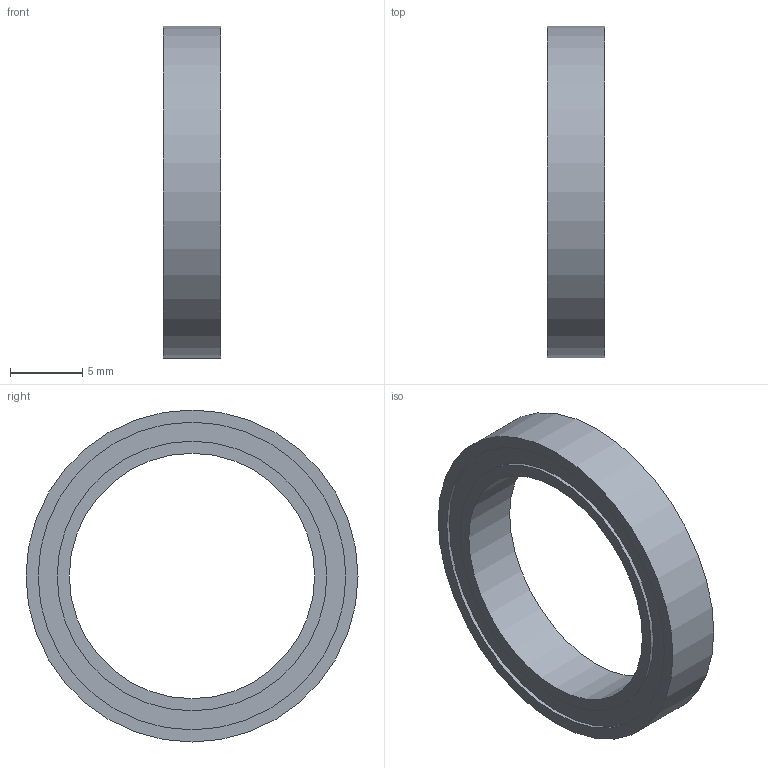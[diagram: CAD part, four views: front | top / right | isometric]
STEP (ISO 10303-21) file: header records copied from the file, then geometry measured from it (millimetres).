
FILE_DESCRIPTION(('Open CASCADE Model'),'2;1');
FILE_NAME('Open CASCADE Shape Model','2026-11-01T16:33:57',('Author'),( 'Open CASCADE'),'Open CASCADE STEP processor 8.0','build123d', 'Unknown');
FILE_SCHEMA(('AUTOMOTIVE_DESIGN { 1 0 10303 214 1 1 1 1 }'));
Length unit declared in the file: millimetre
Products named in the file (2): =>[0:1:1:2]; SOLID
Assembly tree (1 placements, depth 2):
  =>[0:1:1:2]
    SOLID
Bounding box: 4 x 23 x 23 mm (x, y, z)
Volume: 712.5 mm3; surface area: 942.5 mm2
Topology: 1 solids, 1 shells, 12 faces, 18 edges, 12 vertices
Faces by surface type: cylinder 6, plane 6
Full cylindrical faces by diameter (mm): 17 x1, 18.68 x2, 21.32 x2, 23 x1
Entity records: 540 total; most frequent: DIRECTION 94, CARTESIAN_POINT 80, ORIENTED_EDGE 36, PCURVE 36, DEFINITIONAL_REPRESENTATION 36, LINE 30, VECTOR 30, AXIS2_PLACEMENT_3D 26
